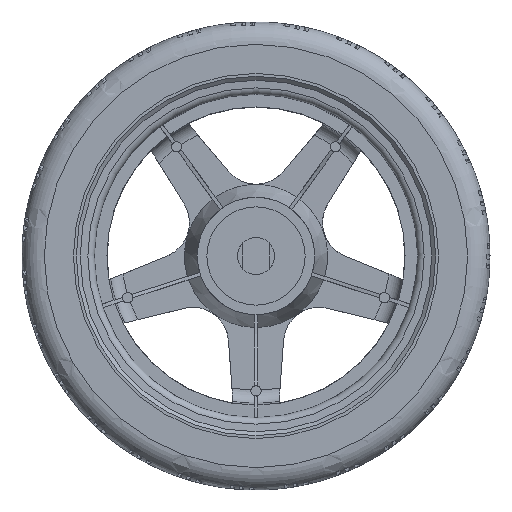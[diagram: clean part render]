
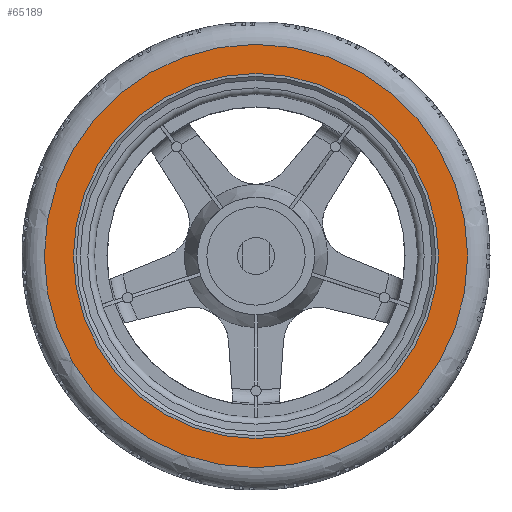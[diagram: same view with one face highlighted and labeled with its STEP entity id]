
A CAD part, front view. The second image highlights one B-rep face of the part: STEP entity #65189.
In plain terms, the highlighted planar face has unit normal (0, -1, 0).
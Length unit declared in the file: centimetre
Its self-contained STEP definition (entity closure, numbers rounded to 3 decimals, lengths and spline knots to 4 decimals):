
#17304=PLANE('',#69633);
#18109=VERTEX_POINT('',#91695);
#23888=VERTEX_POINT('',#121848);
#24000=CIRCLE('',#65499,3.0101);
#24583=CIRCLE('',#69632,2.5959);
#25591=EDGE_CURVE('',#18109,#18109,#24000,.T.);
#34568=EDGE_CURVE('',#23888,#23888,#24583,.T.);
#54537=ORIENTED_EDGE('',*,*,#25591,.F.);
#54538=ORIENTED_EDGE('',*,*,#34568,.T.);
#58116=EDGE_LOOP('',(#54537));
#58117=EDGE_LOOP('',(#54538));
#61695=FACE_BOUND('',#58116,.T.);
#61696=FACE_BOUND('',#58117,.T.);
#65189=ADVANCED_FACE('',(#61695,#61696),#17304,.T.);
#65499=AXIS2_PLACEMENT_3D('',#91694,#70355,#70356);
#69632=AXIS2_PLACEMENT_3D('',#121847,#81870,#81871);
#69633=AXIS2_PLACEMENT_3D('',#121849,#81872,$);
#70355=DIRECTION('',(0.,1.,0.));
#70356=DIRECTION('',(3.01,0.,0.));
#81870=DIRECTION('',(0.,1.,0.));
#81871=DIRECTION('',(2.596,0.,0.));
#81872=DIRECTION('',(0.,-1.,0.));
#91694=CARTESIAN_POINT('',(0.,-0.0076,0.));
#91695=CARTESIAN_POINT('',(3.0101,-0.0076,0.));
#121847=CARTESIAN_POINT('',(0.,-0.0076,0.));
#121848=CARTESIAN_POINT('',(2.5959,-0.0076,0.));
#121849=CARTESIAN_POINT('',(2.803,-0.0076,0.));
